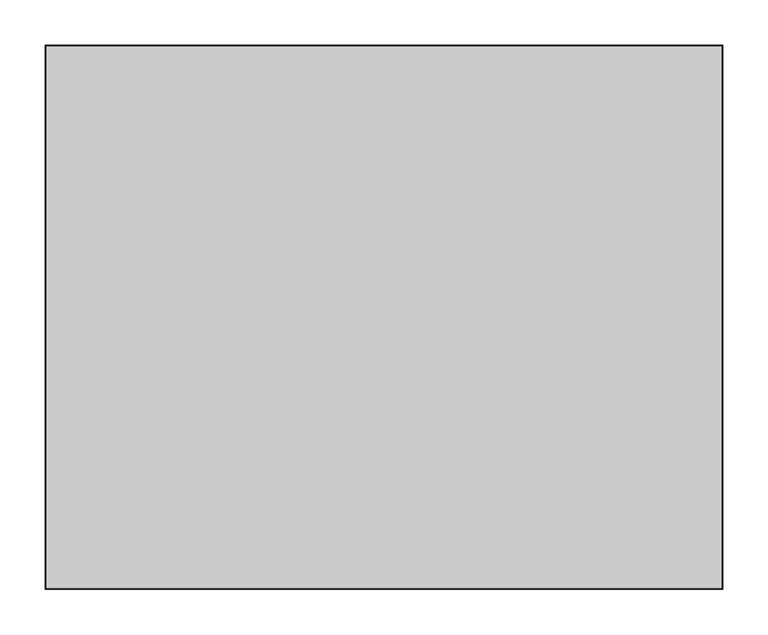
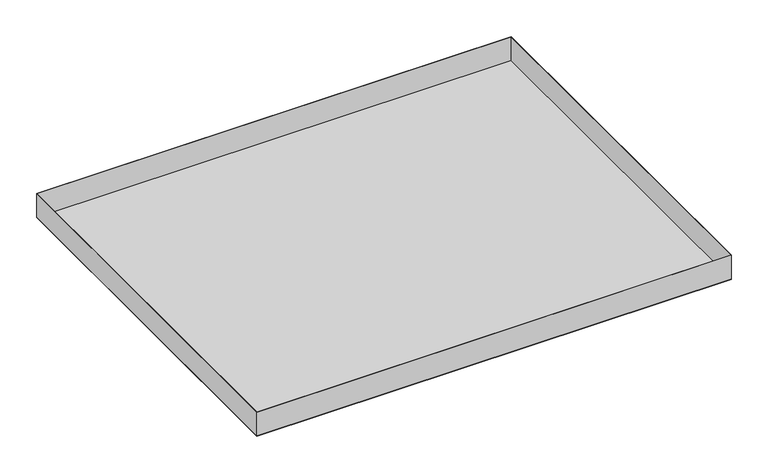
"""IFC4 building model written with IfcOpenShell, lengths in millimetres: proxy geometry, durlum_S-OM-100-RHOMBOS_panel : durlum_S-OM-100-RHOMBOS_panel_wall_length_cut."""

import ifcopenshell
import ifcopenshell.guid

model = None  # the IFC model being written
_history = None  # IfcOwnerHistory: only IFC2X3 demands one
_inside = {}  # id of a spatial element -> (the spatial element, [elements in it])
_under = {}  # id of a project, library or spatial element -> (it, [spatial elements below it])
_declared = {}  # id of a project -> (the project, [libraries it declares])
_typed = {}  # id of a type object -> (the type object, [elements of that type])
_made_of = {}  # id of a material, layer set ... -> (it, [elements and type objects made of it])


def new_model(schema):
    """Start an empty IFC model of exactly this schema.

    Asked for "IFC4X3", IfcOpenShell would pick the latest addendum, in which some entities
    have other attributes; the version numbers below select the first issue.
    IFC2X3 requires an IfcOwnerHistory on every rooted entity: one is made here for all.
    """
    global model, _history
    if schema == "IFC4X3":
        model = ifcopenshell.file(schema_version=(4, 3, 0, 0))
    else:
        model = ifcopenshell.file(schema=schema)
    _inside.clear()
    _under.clear()
    _declared.clear()
    _typed.clear()
    _made_of.clear()
    _history = None
    if model.schema == "IFC2X3":
        org = make("IfcOrganization", Name="unknown")
        user = make(
            "IfcPersonAndOrganization",
            ThePerson=make("IfcPerson", FamilyName="unknown"),
            TheOrganization=org,
        )
        app = make(
            "IfcApplication",
            ApplicationDeveloper=org,
            Version="unknown",
            ApplicationFullName="unknown",
            ApplicationIdentifier="unknown",
        )
        _history = make(
            "IfcOwnerHistory",
            OwningUser=user,
            OwningApplication=app,
            ChangeAction="ADDED",
            CreationDate=0,
        )
    return model


def make(cls, **values):
    """One entity of the class cls with the attributes given. An attribute that is None is left unset."""
    return model.create_entity(
        cls, **{name: value for name, value in values.items() if value is not None}
    )


def rooted(cls, **values):
    """An entity with a GlobalId (a new one), such as an element, a storey or a relation."""
    return make(cls, GlobalId=ifcopenshell.guid.new(), OwnerHistory=_history, **values)


def si_unit(unit_type, name, prefix=None):
    """IfcSIUnit, for example si_unit("LENGTHUNIT", "METRE", prefix="MILLI")."""
    return make("IfcSIUnit", UnitType=unit_type, Prefix=prefix, Name=name)


def assignment(units):
    """IfcUnitAssignment: the units of a project."""
    return None if units is None else make("IfcUnitAssignment", Units=units)


def point(xyz):
    """IfcCartesianPoint."""
    return None if xyz is None else make("IfcCartesianPoint", Coordinates=xyz)


def direction(xyz):
    """IfcDirection."""
    return None if xyz is None else make("IfcDirection", DirectionRatios=xyz)


def frame(location, z_axis=None, x_axis=None):
    """IfcAxis2Placement3D, a coordinate frame: its origin and axes. An axis left out is left unset."""
    return make(
        "IfcAxis2Placement3D",
        Location=point(location),
        Axis=direction(z_axis),
        RefDirection=direction(x_axis),
    )


def origin():
    """The frame at (0, 0, 0) with its axes left unset."""
    return frame((0.0, 0.0, 0.0))


def origin_with_axes():
    """The frame at (0, 0, 0) with the z axis (0, 0, 1) and the x axis (1, 0, 0) written out."""
    return frame((0.0, 0.0, 0.0), z_axis=(0.0, 0.0, 1.0), x_axis=(1.0, 0.0, 0.0))


def place(relative_to, where):
    """IfcLocalPlacement: puts the frame where relative to a parent placement (None: the world)."""
    return make(
        "IfcLocalPlacement", PlacementRelTo=relative_to, RelativePlacement=where
    )


def context(
    kind, dimensions, precision=None, world=None, true_north=None, identifier=None
):
    """IfcGeometricRepresentationContext, for example the 3D "Model" context."""
    return make(
        "IfcGeometricRepresentationContext",
        ContextIdentifier=identifier,
        ContextType=kind,
        CoordinateSpaceDimension=dimensions,
        Precision=precision,
        WorldCoordinateSystem=world,
        TrueNorth=true_north,
    )


def project(units=None, contexts=None):
    """IfcProject with its units and contexts."""
    return rooted(
        "IfcProject",
        Name="project",
        RepresentationContexts=contexts,
        UnitsInContext=assignment(units),
    )


def spatial(cls, under=None, at=None, **own):
    """A site, building, storey or space (cls), placed at a placement, below another one or the project."""
    s = rooted(cls, ObjectPlacement=at, **own)
    if under is not None:
        _under.setdefault(under.id(), (under, []))[1].append(s)
    return s


def polyline(points):
    """IfcPolyline through the points."""
    return make("IfcPolyline", Points=[point(p) for p in points])


def outline(outer, holes=None, kind="AREA"):
    """IfcArbitraryClosedProfileDef: a profile drawn as a closed curve; with holes, ...WithVoids."""
    if holes is None:
        return make("IfcArbitraryClosedProfileDef", ProfileType=kind, OuterCurve=outer)
    return make(
        "IfcArbitraryProfileDefWithVoids",
        ProfileType=kind,
        OuterCurve=outer,
        InnerCurves=holes,
    )


def extrude(swept, where, along, depth):
    """IfcExtrudedAreaSolid: the profile swept, set in the frame where, extruded along a direction by depth."""
    return make(
        "IfcExtrudedAreaSolid",
        SweptArea=swept,
        Position=where,
        ExtrudedDirection=direction(along),
        Depth=depth,
    )


def shape(context_of_items, identifier, shape_type, items):
    """IfcShapeRepresentation: the items that make up one representation, for example the "Body"."""
    return make(
        "IfcShapeRepresentation",
        ContextOfItems=context_of_items,
        RepresentationIdentifier=identifier,
        RepresentationType=shape_type,
        Items=items,
    )


def source(mapping_origin, context_of_items, identifier, shape_type, items):
    """IfcRepresentationMap: a shape defined once, which mapped items show again and again."""
    return make(
        "IfcRepresentationMap",
        MappingOrigin=mapping_origin,
        MappedRepresentation=shape(context_of_items, identifier, shape_type, items),
    )


def transform(
    local_origin,
    x_axis=None,
    y_axis=None,
    z_axis=None,
    scale=None,
    scale2=None,
    scale3=None,
    uniform=True,
):
    """IfcCartesianTransformationOperator3D, or its non-uniform kind. x_axis, y_axis, z_axis: its Axis1, 2, 3."""
    if uniform:
        return make(
            "IfcCartesianTransformationOperator3D",
            Axis1=direction(x_axis),
            Axis2=direction(y_axis),
            LocalOrigin=point(local_origin),
            Scale=scale,
            Axis3=direction(z_axis),
        )
    return make(
        "IfcCartesianTransformationOperator3DnonUniform",
        Axis1=direction(x_axis),
        Axis2=direction(y_axis),
        LocalOrigin=point(local_origin),
        Scale=scale,
        Axis3=direction(z_axis),
        Scale2=scale2,
        Scale3=scale3,
    )


def mapped(mapping_source, mapping_target):
    """IfcMappedItem: shows the shape of a source again, moved by a transform."""
    return make(
        "IfcMappedItem", MappingSource=mapping_source, MappingTarget=mapping_target
    )


def made_of(thing, what):
    """Note that an element or type object is made of a material, layer set ...; save() writes the relation."""
    if what is not None:
        _made_of.setdefault(what.id(), (what, []))[1].append(thing)
    return thing


def element(
    cls,
    number,
    at=None,
    inside=None,
    cuts=None,
    type_object=None,
    material=None,
    context=None,
    identifier="Body",
    shape_type=None,
    held_by="IfcProductDefinitionShape",
    body=None,
    shapes=None,
    **own,
):
    """One element of the class cls, such as IfcWall. Its Tag is "e" and its number.

    at: its placement. inside: the storey or other place that contains it. cuts: it is an
    opening in that element (IfcRelVoidsElement). A single representation is given by context,
    identifier, shape_type and body (its items); several are given by shapes. held_by: the class
    of the entity that holds the representations. save() writes the other relations.
    """
    e = rooted(cls, Tag="e%d" % number, ObjectPlacement=at, **own)
    if body is not None:
        shapes = [shape(context, identifier, shape_type, body)]
    if shapes is not None:
        e.Representation = make(held_by, Representations=shapes)
    if inside is not None:
        _inside.setdefault(inside.id(), (inside, []))[1].append(e)
    if cuts is not None:
        rooted(
            "IfcRelVoidsElement", RelatingBuildingElement=cuts, RelatedOpeningElement=e
        )
    if type_object is not None:
        _typed.setdefault(type_object.id(), (type_object, []))[1].append(e)
    return made_of(e, material)


def aggregate(whole, parts):
    """IfcRelAggregates: a whole, such as a stair, and the parts it consists of."""
    return rooted("IfcRelAggregates", RelatingObject=whole, RelatedObjects=parts)


def save(model, path):
    """Write the relations noted so far, then the file.

    IfcRelAggregates (storeys below a building ...), IfcRelContainedInSpatialStructure (elements
    in a storey), IfcRelDefinesByType, IfcRelAssociatesMaterial and IfcRelDeclares: one each for
    every whole, place, type object, material and project.
    """
    for whole, parts in _under.values():
        aggregate(whole, parts)
    for where, things in _inside.values():
        rooted(
            "IfcRelContainedInSpatialStructure",
            RelatedElements=things,
            RelatingStructure=where,
        )
    for kind, things in _typed.values():
        rooted("IfcRelDefinesByType", RelatedObjects=things, RelatingType=kind)
    for what, things in _made_of.values():
        rooted("IfcRelAssociatesMaterial", RelatedObjects=things, RelatingMaterial=what)
    for by, libraries in _declared.values():
        rooted("IfcRelDeclares", RelatingContext=by, RelatedDefinitions=libraries)
    model.write(path)


def generic_models_0fcaee43(model_context):
    return source(origin(), model_context, "Body", "SweptSolid", [
        extrude(outline(polyline([(372.5, 299.5), (372.5, -299.5), (-372.5, -299.5), (-372.5, 299.5), (372.5, 299.5)]), holes=[polyline([(371.9, 298.9), (-371.9, 298.9), (-371.9, -298.9), (371.9, -298.9), (371.9, 298.9)])]), frame((0.0, 0.0, 0.6), z_axis=(0.0, 0.0, 1.0), x_axis=(1.0, 0.0, 0.0)), (0.0, 0.0, 1.0), 39.4),
        extrude(outline(polyline([(371.5, 298.5), (371.5, -298.5), (-371.5, -298.5), (-371.5, 298.5), (371.5, 298.5)])), frame((0.0, 0.0, 0.6), z_axis=(0.0, 0.0, 1.0), x_axis=(1.0, 0.0, 0.0)), (0.0, 0.0, 1.0), 0.6),
        extrude(outline(polyline([(372.5, 299.5), (372.5, -299.5), (-372.5, -299.5), (-372.5, 299.5), (372.5, 299.5)]), holes=[polyline([(371.5, 298.5), (-371.5, 298.5), (-371.5, -298.5), (371.5, -298.5), (371.5, 298.5)])]), origin_with_axes(), (0.0, 0.0, 1.0), 0.6),
        extrude(outline(polyline([(371.5, 298.5), (371.5, -298.5), (-371.5, -298.5), (-371.5, 298.5), (371.5, 298.5)])), origin_with_axes(), (0.0, 0.0, 1.0), 0.6),
    ])


if __name__ == "__main__":
    model = new_model("IFC4")
    model_context = context("Model", 3, world=origin())
    ifc_project = project(units=[si_unit("LENGTHUNIT", "METRE", prefix="MILLI")], contexts=[model_context])
    site = spatial("IfcSite", under=ifc_project)
    building = spatial("IfcBuilding", under=site)
    placement = place(None, origin())
    generic_models_shape = generic_models_0fcaee43(model_context)
    element("IfcBuildingElementProxy", 1, Name="durlum_S-OM-100-RHOMBOS_panel : durlum_S-OM-100-RHOMBOS_panel_wall_length_cut", ObjectType="durlum_S-OM-100-RHOMBOS_panel : durlum_S-OM-100-RHOMBOS_panel_wall_length_cut", at=placement, inside=building, context=model_context, shape_type="MappedRepresentation", body=[
        mapped(generic_models_shape, transform((0.0, 0.0, 0.0), x_axis=(1.0, 0.0, 0.0), y_axis=(0.0, 1.0, 0.0), z_axis=(0.0, 0.0, 1.0))),
    ])
    save(model, "model.ifc")
